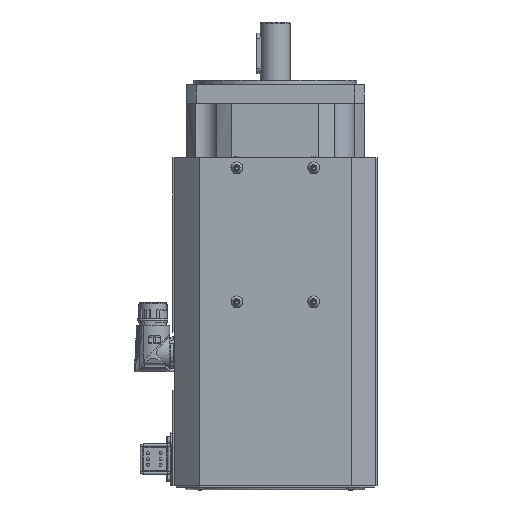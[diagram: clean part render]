
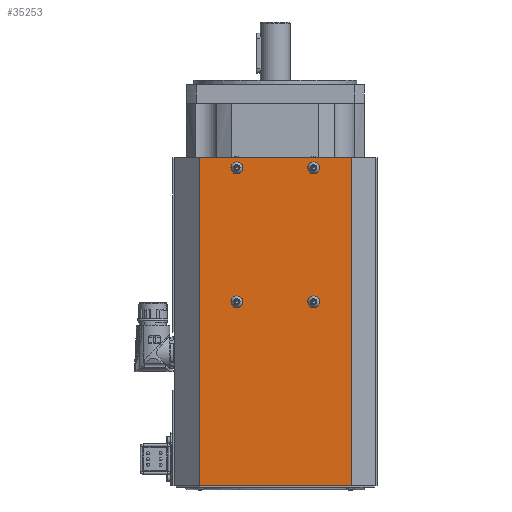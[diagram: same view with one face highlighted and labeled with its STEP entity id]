
A CAD part, left-side view. The second image highlights one B-rep face of the part: STEP entity #35253.
In plain terms, the highlighted planar face has unit normal (-1, 0, 0).
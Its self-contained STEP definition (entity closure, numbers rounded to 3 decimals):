
#3839=LINE('',#68573,#5574);
#3860=LINE('',#68613,#5595);
#3927=LINE('',#68755,#5662);
#3930=LINE('',#68762,#5665);
#5574=VECTOR('',#47564,121.594);
#5595=VECTOR('',#47587,121.594);
#5662=VECTOR('',#47736,262.);
#5665=VECTOR('',#47747,262.);
#8537=FACE_BOUND('',#13305,.T.);
#8538=FACE_BOUND('',#13306,.T.);
#8539=FACE_BOUND('',#13307,.T.);
#8540=FACE_BOUND('',#13308,.T.);
#8541=FACE_BOUND('',#13309,.T.);
#13305=EDGE_LOOP('',(#31799));
#13306=EDGE_LOOP('',(#31800));
#13307=EDGE_LOOP('',(#31801));
#13308=EDGE_LOOP('',(#31802));
#13309=EDGE_LOOP('',(#31803,#31804,#31805,#31806));
#14867=CIRCLE('',#38490,4.75);
#14881=CIRCLE('',#38525,4.75);
#14895=CIRCLE('',#38560,4.75);
#14909=CIRCLE('',#38595,4.75);
#17906=VERTEX_POINT('',#67318);
#17926=VERTEX_POINT('',#67403);
#17946=VERTEX_POINT('',#67488);
#17966=VERTEX_POINT('',#67573);
#18216=VERTEX_POINT('',#68570);
#18217=VERTEX_POINT('',#68572);
#18234=VERTEX_POINT('',#68610);
#18235=VERTEX_POINT('',#68612);
#22244=EDGE_CURVE('',#17906,#17906,#14867,.T.);
#22276=EDGE_CURVE('',#17926,#17926,#14881,.T.);
#22308=EDGE_CURVE('',#17946,#17946,#14895,.T.);
#22340=EDGE_CURVE('',#17966,#17966,#14909,.T.);
#22719=EDGE_CURVE('',#18217,#18216,#3839,.T.);
#22740=EDGE_CURVE('',#18234,#18235,#3860,.T.);
#22811=EDGE_CURVE('',#18235,#18216,#3927,.T.);
#22814=EDGE_CURVE('',#18234,#18217,#3930,.T.);
#31799=ORIENTED_EDGE('',*,*,#22244,.T.);
#31800=ORIENTED_EDGE('',*,*,#22276,.T.);
#31801=ORIENTED_EDGE('',*,*,#22308,.T.);
#31802=ORIENTED_EDGE('',*,*,#22340,.T.);
#31803=ORIENTED_EDGE('',*,*,#22740,.F.);
#31804=ORIENTED_EDGE('',*,*,#22814,.T.);
#31805=ORIENTED_EDGE('',*,*,#22719,.T.);
#31806=ORIENTED_EDGE('',*,*,#22811,.F.);
#33231=PLANE('',#38914);
#35253=ADVANCED_FACE('',(#8537,#8538,#8539,#8540,#8541),#33231,.T.);
#38490=AXIS2_PLACEMENT_3D('',#67319,#46545,#46546);
#38525=AXIS2_PLACEMENT_3D('',#67404,#46627,#46628);
#38560=AXIS2_PLACEMENT_3D('',#67489,#46709,#46710);
#38595=AXIS2_PLACEMENT_3D('',#67574,#46791,#46792);
#38914=AXIS2_PLACEMENT_3D('',#68763,#47748,#47749);
#46545=DIRECTION('center_axis',(1.,0.,0.));
#46546=DIRECTION('ref_axis',(0.,0.,-1.));
#46627=DIRECTION('center_axis',(1.,0.,0.));
#46628=DIRECTION('ref_axis',(0.,0.,-1.));
#46709=DIRECTION('center_axis',(1.,0.,0.));
#46710=DIRECTION('ref_axis',(0.,0.,-1.));
#46791=DIRECTION('center_axis',(1.,0.,0.));
#46792=DIRECTION('ref_axis',(0.,0.,-1.));
#47564=DIRECTION('',(0.,-1.,0.));
#47587=DIRECTION('',(0.,-1.,0.));
#47736=DIRECTION('',(0.,0.,-1.));
#47747=DIRECTION('',(0.,0.,-1.));
#47748=DIRECTION('center_axis',(-1.,0.,0.));
#47749=DIRECTION('ref_axis',(0.,1.,0.));
#67318=CARTESIAN_POINT('',(-80.2,30.65,-46.75));
#67319=CARTESIAN_POINT('Origin',(-80.2,30.65,-51.5));
#67403=CARTESIAN_POINT('',(-80.2,30.65,-153.75));
#67404=CARTESIAN_POINT('Origin',(-80.2,30.65,-158.5));
#67488=CARTESIAN_POINT('',(-80.2,-30.65,-46.75));
#67489=CARTESIAN_POINT('Origin',(-80.2,-30.65,-51.5));
#67573=CARTESIAN_POINT('',(-80.2,-30.65,-153.75));
#67574=CARTESIAN_POINT('Origin',(-80.2,-30.65,-158.5));
#68570=CARTESIAN_POINT('',(-80.2,-60.797,-305.5));
#68572=CARTESIAN_POINT('',(-80.2,60.797,-305.5));
#68573=CARTESIAN_POINT('',(-80.2,-60.797,-305.5));
#68610=CARTESIAN_POINT('',(-80.2,60.797,-43.5));
#68612=CARTESIAN_POINT('',(-80.2,-60.797,-43.5));
#68613=CARTESIAN_POINT('',(-80.2,60.797,-43.5));
#68755=CARTESIAN_POINT('',(-80.2,-60.797,-43.5));
#68762=CARTESIAN_POINT('',(-80.2,60.797,-43.5));
#68763=CARTESIAN_POINT('Origin',(-80.2,0.,-43.5));
